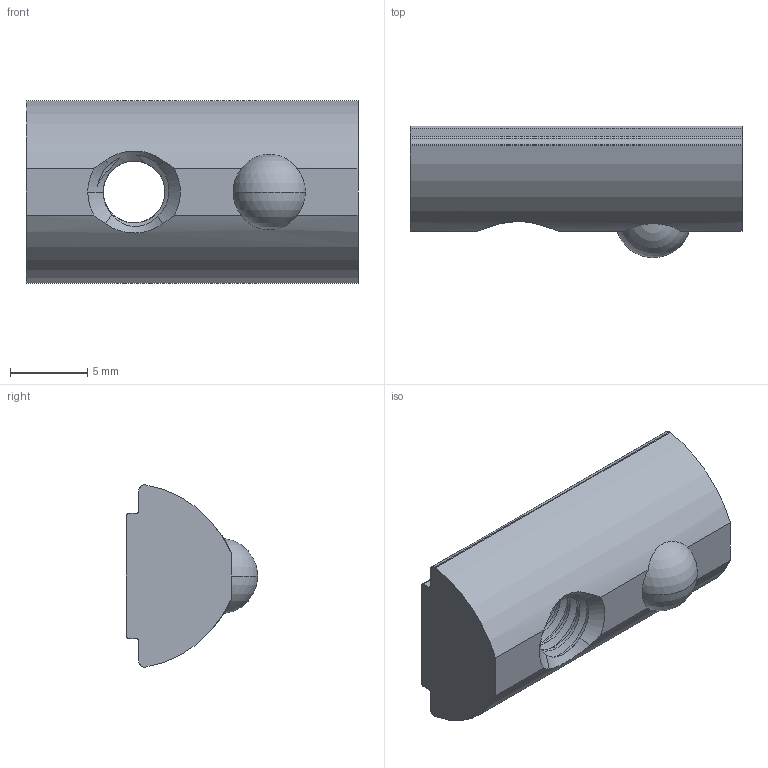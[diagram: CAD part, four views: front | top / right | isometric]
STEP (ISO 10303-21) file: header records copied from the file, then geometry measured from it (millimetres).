
FILE_DESCRIPTION (( 'STEP AP214' ), '1' );
FILE_NAME ('Spring Ball Loaded Nut - T-Slot - 30 Series - M4.STEP', '2024-10-08T00:23:31', ( '' ), ( '' ), 'SwSTEP 2.0', 'SolidWorks 2024', '' );
FILE_SCHEMA (( 'AUTOMOTIVE_DESIGN' ));
Length unit declared in the file: millimetre
Products named in the file (1): Spring Ball Loaded Nut - T-Slot - 30 Series - M4
Bounding box: 21.5 x 8.5 x 11.8 mm (x, y, z)
Volume: 1225.8 mm3; surface area: 896.4 mm2
Topology: 1 solids, 1 shells, 46 faces, 136 edges, 91 vertices
Faces by surface type: cylinder 22, plane 10, bspline 10, sphere 2, cone 2
Entity records: 5200 total; most frequent: CARTESIAN_POINT 4085, ORIENTED_EDGE 272, DIRECTION 176, EDGE_CURVE 136, VERTEX_POINT 91, AXIS2_PLACEMENT_3D 65, B_SPLINE_CURVE_WITH_KNOTS 47, EDGE_LOOP 47
